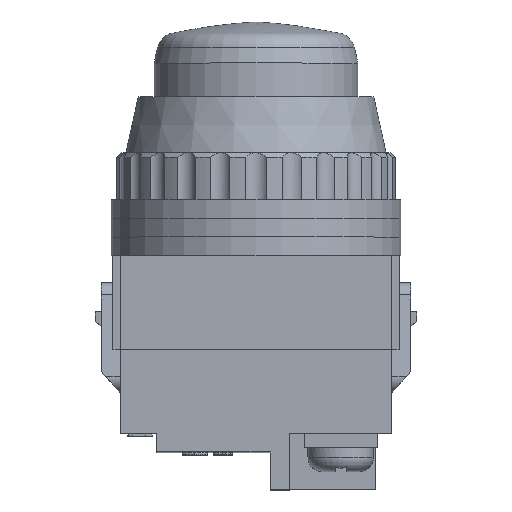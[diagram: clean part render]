
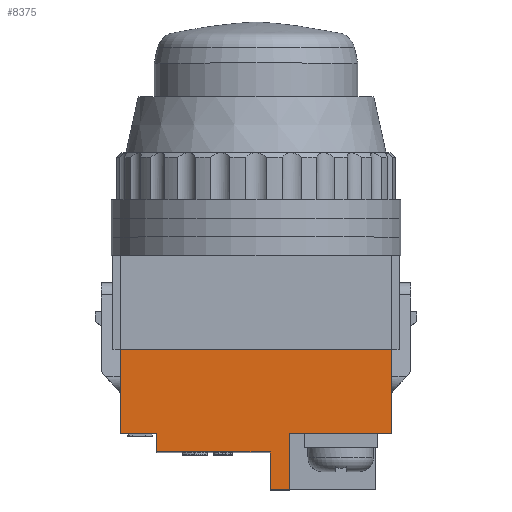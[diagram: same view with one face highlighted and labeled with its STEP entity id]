
A CAD part, top view. The second image highlights one B-rep face of the part: STEP entity #8375.
In plain terms, the highlighted planar face has unit normal (0, 0, 1).
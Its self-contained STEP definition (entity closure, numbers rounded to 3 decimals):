
#776=FACE_OUTER_BOUND('',#1268,.T.);
#1268=EDGE_LOOP('',(#7041,#7042,#7043,#7044,#7045,#7046,#7047,#7048,#7049,
#7050));
#1519=LINE('',#11199,#2284);
#1528=LINE('',#11216,#2293);
#1530=LINE('',#11221,#2295);
#1987=LINE('',#13956,#2752);
#1990=LINE('',#13963,#2755);
#1992=LINE('',#13967,#2757);
#1995=LINE('',#13973,#2760);
#1996=LINE('',#13976,#2761);
#2067=LINE('',#14149,#2832);
#2068=LINE('',#14151,#2833);
#2284=VECTOR('',#9245,4.);
#2293=VECTOR('',#9256,2.1);
#2295=VECTOR('',#9260,6.);
#2752=VECTOR('',#9987,3.9);
#2755=VECTOR('',#9996,10.9);
#2757=VECTOR('',#10000,12.1);
#2760=VECTOR('',#10009,2.);
#2761=VECTOR('',#10012,9.);
#2832=VECTOR('',#10173,9.);
#2833=VECTOR('',#10176,29.);
#3326=VERTEX_POINT('',#11196);
#3327=VERTEX_POINT('',#11198);
#3334=VERTEX_POINT('',#11214);
#3335=VERTEX_POINT('',#11218);
#3782=VERTEX_POINT('',#13954);
#3783=VERTEX_POINT('',#13955);
#3784=VERTEX_POINT('',#13962);
#3785=VERTEX_POINT('',#13966);
#3786=VERTEX_POINT('',#13975);
#3843=VERTEX_POINT('',#14147);
#4171=EDGE_CURVE('',#3327,#3326,#1519,.T.);
#4180=EDGE_CURVE('',#3326,#3334,#1528,.T.);
#4182=EDGE_CURVE('',#3334,#3335,#1530,.T.);
#4851=EDGE_CURVE('',#3782,#3783,#1987,.T.);
#4854=EDGE_CURVE('',#3335,#3784,#1990,.T.);
#4856=EDGE_CURVE('',#3785,#3327,#1992,.T.);
#4859=EDGE_CURVE('',#3783,#3785,#1995,.T.);
#4860=EDGE_CURVE('',#3782,#3786,#1996,.T.);
#4947=EDGE_CURVE('',#3784,#3843,#2067,.T.);
#4948=EDGE_CURVE('',#3786,#3843,#2068,.T.);
#7041=ORIENTED_EDGE('',*,*,#4854,.T.);
#7042=ORIENTED_EDGE('',*,*,#4947,.T.);
#7043=ORIENTED_EDGE('',*,*,#4948,.F.);
#7044=ORIENTED_EDGE('',*,*,#4860,.F.);
#7045=ORIENTED_EDGE('',*,*,#4851,.T.);
#7046=ORIENTED_EDGE('',*,*,#4859,.T.);
#7047=ORIENTED_EDGE('',*,*,#4856,.T.);
#7048=ORIENTED_EDGE('',*,*,#4171,.T.);
#7049=ORIENTED_EDGE('',*,*,#4180,.T.);
#7050=ORIENTED_EDGE('',*,*,#4182,.T.);
#7853=PLANE('',#8763);
#8375=ADVANCED_FACE('',(#776),#7853,.T.);
#8763=AXIS2_PLACEMENT_3D('',#14150,#10174,#10175);
#9245=DIRECTION('',(0.,-1.,0.));
#9256=DIRECTION('',(1.,0.,0.));
#9260=DIRECTION('',(0.,1.,0.));
#9987=DIRECTION('',(1.,0.,0.));
#9996=DIRECTION('',(1.,0.,0.));
#10000=DIRECTION('',(1.,0.,0.));
#10009=DIRECTION('',(0.,-1.,0.));
#10012=DIRECTION('',(0.,1.,0.));
#10173=DIRECTION('',(0.,1.,0.));
#10174=DIRECTION('center_axis',(0.,0.,1.));
#10175=DIRECTION('ref_axis',(1.,0.,0.));
#10176=DIRECTION('',(1.,0.,0.));
#11196=CARTESIAN_POINT('',(1.5,0.,18.));
#11198=CARTESIAN_POINT('',(1.5,4.,18.));
#11199=CARTESIAN_POINT('',(1.5,0.,18.));
#11214=CARTESIAN_POINT('',(3.6,0.,18.));
#11216=CARTESIAN_POINT('',(-14.5,0.,18.));
#11218=CARTESIAN_POINT('',(3.6,6.,18.));
#11221=CARTESIAN_POINT('',(3.6,0.,18.));
#13954=CARTESIAN_POINT('',(-14.5,6.,18.));
#13955=CARTESIAN_POINT('',(-10.6,6.,18.));
#13956=CARTESIAN_POINT('',(-12.55,6.,18.));
#13962=CARTESIAN_POINT('',(14.5,6.,18.));
#13963=CARTESIAN_POINT('',(-3.15,6.,18.));
#13966=CARTESIAN_POINT('',(-10.6,4.,18.));
#13967=CARTESIAN_POINT('',(-6.5,4.,18.));
#13973=CARTESIAN_POINT('',(-10.6,2.,18.));
#13975=CARTESIAN_POINT('',(-14.5,15.,18.));
#13976=CARTESIAN_POINT('',(-14.5,0.,18.));
#14147=CARTESIAN_POINT('',(14.5,15.,18.));
#14149=CARTESIAN_POINT('',(14.5,0.,18.));
#14150=CARTESIAN_POINT('Origin',(-14.5,0.,18.));
#14151=CARTESIAN_POINT('',(-14.5,15.,18.));
